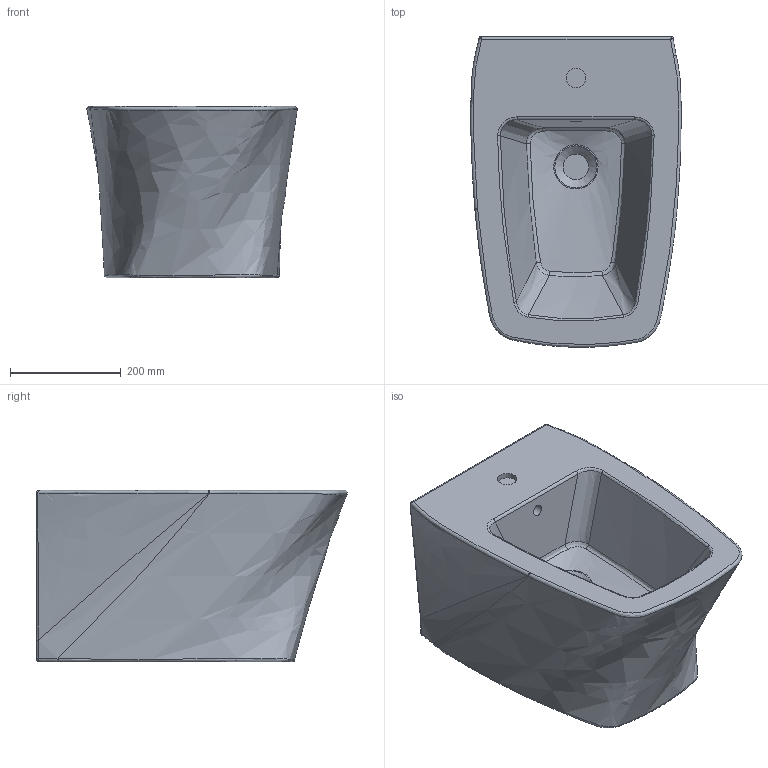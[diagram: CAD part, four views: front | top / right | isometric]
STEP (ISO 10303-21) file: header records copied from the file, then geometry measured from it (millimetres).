
FILE_DESCRIPTION (( 'STEP AP203' ), '1' );
FILE_NAME ('HERA BIDET SOSPESO.STEP', '2018-09-18T08:43:30', ( '' ), ( '' ), 'SwSTEP 2.0', 'SolidWorks 2018', '' );
FILE_SCHEMA (( 'CONFIG_CONTROL_DESIGN' ));
Length unit declared in the file: millimetre
Products named in the file (1): HERA BIDET SOSPESO
Bounding box: 380.35 x 561.96 x 310 mm (x, y, z)
Volume: 39798815.3 mm3; surface area: 912980.5 mm2
Topology: 1 solids, 1 shells, 63 faces, 155 edges, 94 vertices
Faces by surface type: bspline 48, plane 8, cylinder 6, cone 1
Full cylindrical faces by diameter (mm): 20 x1, 35 x1, 46 x1
Entity records: 9594 total; most frequent: CARTESIAN_POINT 8443, ORIENTED_EDGE 288, EDGE_CURVE 144, DIRECTION 116, B_SPLINE_CURVE_WITH_KNOTS 98, VERTEX_POINT 92, EDGE_LOOP 72, FACE_OUTER_BOUND 67
